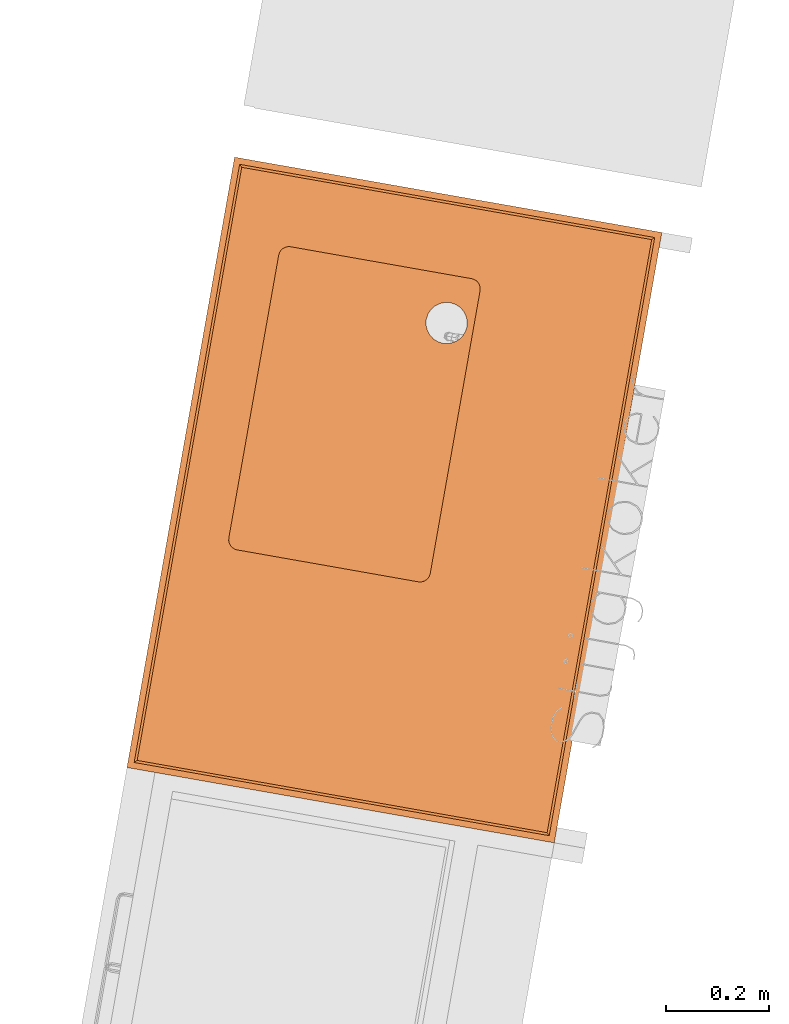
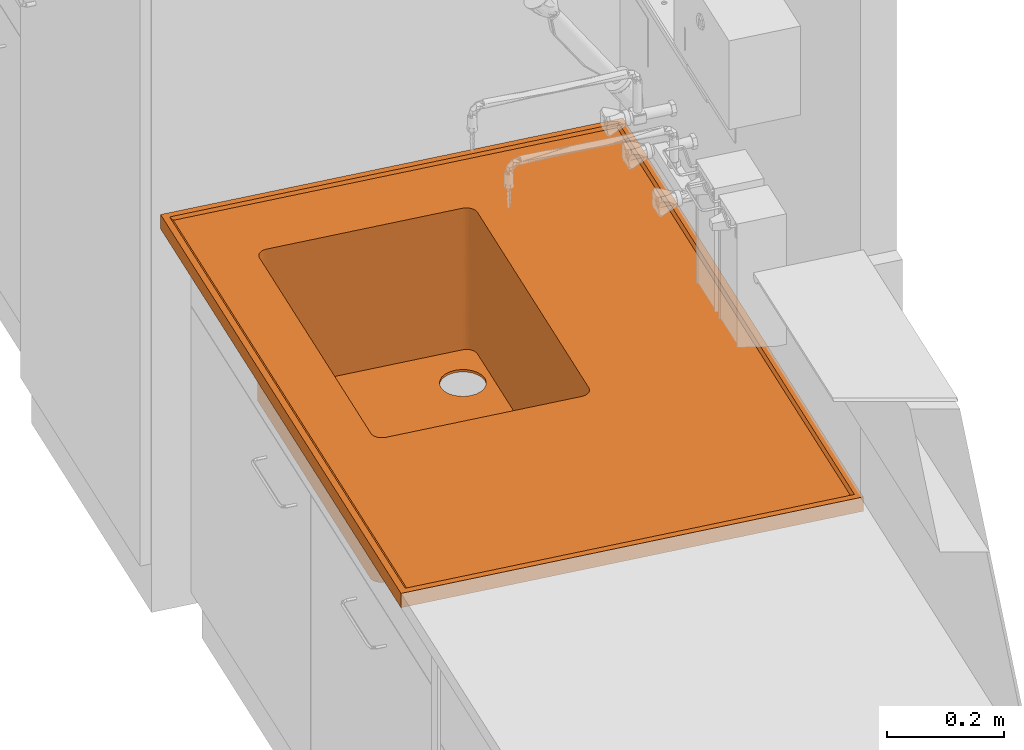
# One storey, part 32 of 43: 1 proxy.
"""IFC2X3 building model written with IfcOpenShell, lengths in metres."""

from ifc_helpers import new_model, entity, si_unit, converted_unit, derived_unit, direction, frame, origin, place, context, subcontext, project, spatial, faceted_brep, source, transform, mapped, material, type_object, type_shapes, element, save


model = new_model("IFC2X3")

# Units and contexts
model_context = context("Model", 3, precision=1e-05, world=origin(), true_north=direction((6.12303176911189e-17, 1.0)))
body_context = subcontext(model_context, "Body", "Model", "MODEL_VIEW")
ifc_project = project(units=[si_unit("LENGTHUNIT", "METRE"), si_unit("AREAUNIT", "SQUARE_METRE"), si_unit("VOLUMEUNIT", "CUBIC_METRE"), converted_unit("PLANEANGLEUNIT", "DEGREE", entity("IfcRatioMeasure", 0.0174532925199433), si_unit("PLANEANGLEUNIT", "RADIAN"), dimensions=[0, 0, 0, 0, 0, 0, 0]), si_unit("MASSUNIT", "GRAM", prefix="KILO"), derived_unit("MASSDENSITYUNIT", [(si_unit("MASSUNIT", "GRAM", prefix="KILO"), 1), (si_unit("LENGTHUNIT", "METRE"), -3)]), derived_unit("MOMENTOFINERTIAUNIT", [(si_unit("LENGTHUNIT", "METRE"), 4)]), si_unit("TIMEUNIT", "SECOND"), si_unit("FREQUENCYUNIT", "HERTZ"), si_unit("THERMODYNAMICTEMPERATUREUNIT", "DEGREE_CELSIUS"), derived_unit("THERMALTRANSMITTANCEUNIT", [(si_unit("MASSUNIT", "GRAM", prefix="KILO"), 1), (si_unit("THERMODYNAMICTEMPERATUREUNIT", "KELVIN"), -1), (si_unit("TIMEUNIT", "SECOND"), -3)]), derived_unit("VOLUMETRICFLOWRATEUNIT", [(si_unit("LENGTHUNIT", "METRE"), 3), (si_unit("TIMEUNIT", "SECOND"), -1)]), si_unit("ELECTRICCURRENTUNIT", "AMPERE"), si_unit("ELECTRICVOLTAGEUNIT", "VOLT"), si_unit("POWERUNIT", "WATT"), si_unit("FORCEUNIT", "NEWTON", prefix="KILO"), si_unit("ILLUMINANCEUNIT", "LUX"), si_unit("LUMINOUSFLUXUNIT", "LUMEN"), si_unit("LUMINOUSINTENSITYUNIT", "CANDELA"), derived_unit("USERDEFINED", [(si_unit("MASSUNIT", "GRAM", prefix="KILO"), -1), (si_unit("LENGTHUNIT", "METRE"), -2), (si_unit("TIMEUNIT", "SECOND"), 3), (si_unit("LUMINOUSFLUXUNIT", "LUMEN"), 1)]), derived_unit("LINEARVELOCITYUNIT", [(si_unit("LENGTHUNIT", "METRE"), 1), (si_unit("TIMEUNIT", "SECOND"), -1)]), si_unit("PRESSUREUNIT", "PASCAL"), derived_unit("USERDEFINED", [(si_unit("LENGTHUNIT", "METRE"), -2), (si_unit("MASSUNIT", "GRAM", prefix="KILO"), 1), (si_unit("TIMEUNIT", "SECOND"), -2)]), derived_unit("LINEARFORCEUNIT", [(si_unit("MASSUNIT", "GRAM", prefix="KILO"), 1), (si_unit("LENGTHUNIT", "METRE"), 1), (si_unit("TIMEUNIT", "SECOND"), -2), (si_unit("LENGTHUNIT", "METRE"), -1)]), derived_unit("PLANARFORCEUNIT", [(si_unit("MASSUNIT", "GRAM", prefix="KILO"), 1), (si_unit("LENGTHUNIT", "METRE"), 1), (si_unit("TIMEUNIT", "SECOND"), -2), (si_unit("LENGTHUNIT", "METRE"), -2)])], contexts=[model_context])

# Site, building, storey
site_placement = place(None, origin())
site = spatial("IfcSite", under=ifc_project, at=site_placement, Name="Default", CompositionType="ELEMENT")
building_placement = place(site_placement, origin())
building = spatial("IfcBuilding", under=site, at=building_placement, CompositionType="ELEMENT")
storey_placement = place(building_placement, frame((0.0, 0.0, 3.0)))
storey = spatial("IfcBuildingStorey", under=building, at=storey_placement, Name="01 OG", CompositionType="ELEMENT", Elevation=3.0)

# Proxy
ifc_material = material(Name="Steinzeug")
building_element_proxy_type = type_object("IfcBuildingElementProxyType", Name="dh_Tischplatte Steinzeug Becken:dh_Tischplatte Steinzeug Becken", PredefinedType="NOTDEFINED", material=ifc_material)
shared_shape = source(origin(), body_context, "Body", "Brep", [
    faceted_brep([(0.150681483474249, 0.500176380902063, 0.0), (0.155857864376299, 0.509142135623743, 0.0), (0.16000000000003, 0.512320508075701, 0.0), (0.152679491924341, 0.505000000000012, 0.0), (0.15000000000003, 0.495000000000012, 0.0), (0.16482361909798, 0.514318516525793, 0.0), (0.17000000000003, 0.515000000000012, 0.0), (0.206362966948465, 0.470352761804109, 0.0), (0.210358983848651, 0.480000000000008, 0.0), (0.216715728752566, 0.48828427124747, 0.0), (0.225000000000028, 0.494641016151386, 0.0), (0.234647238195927, 0.498637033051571, 0.0), (0.245000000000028, 0.500000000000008, 0.0), (0.255352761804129, 0.498637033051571, 0.0), (0.730000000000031, 0.515000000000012, 0.0), (0.265000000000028, 0.494641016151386, 0.0), (0.27328427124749, 0.48828427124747, 0.0), (0.279641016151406, 0.480000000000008, 0.0), (0.283637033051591, 0.470352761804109, 0.0), (0.285000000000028, 0.460000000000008, 0.0), (0.283637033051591, 0.449647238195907, 0.0), (0.279641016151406, 0.440000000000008, 0.0), (0.73000000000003, 0.115000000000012, 0.0), (0.75000000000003, 0.135000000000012, 0.0), (0.75000000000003, 0.495000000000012, 0.0), (0.735176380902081, 0.514318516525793, 0.0), (0.740000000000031, 0.512320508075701, 0.0), (0.749318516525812, 0.500176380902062, 0.0), (0.744142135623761, 0.509142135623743, 0.0), (0.747320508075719, 0.505000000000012, 0.0), (0.73517638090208, 0.115681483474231, 0.0), (0.74000000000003, 0.117679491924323, 0.0), (0.749318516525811, 0.129823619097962, 0.0), (0.744142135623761, 0.120857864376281, 0.0), (0.747320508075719, 0.125000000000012, 0.0), (0.27328427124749, 0.431715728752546, 0.0), (0.170000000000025, 0.115000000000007, 0.0), (0.265000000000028, 0.425358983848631, 0.0), (0.255352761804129, 0.421362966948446, 0.0), (0.150000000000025, 0.135000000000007, 0.0), (0.164823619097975, 0.115681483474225, 0.0), (0.160000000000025, 0.117679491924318, 0.0), (0.150681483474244, 0.129823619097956, 0.0), (0.155857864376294, 0.120857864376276, 0.0), (0.152679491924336, 0.125000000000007, 0.0), (0.210358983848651, 0.440000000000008, 0.0), (0.216715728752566, 0.431715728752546, 0.0), (0.225000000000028, 0.425358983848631, 0.0), (0.234647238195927, 0.421362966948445, 0.0), (0.245000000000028, 0.420000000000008, 0.0), (0.205000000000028, 0.460000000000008, 0.0), (0.206362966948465, 0.449647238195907, 0.0), (0.74532050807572, 0.503000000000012, 0.3), (0.74732050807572, 0.505000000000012, 0.3), (0.742142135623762, 0.507142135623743, 0.3), (0.749318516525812, 0.500176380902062, 0.3), (0.747318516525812, 0.498176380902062, 0.3), (0.750000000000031, 0.495000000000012, 0.3), (0.748000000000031, 0.493000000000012, 0.3), (0.748000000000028, 0.137000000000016, 0.3), (0.750000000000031, 0.135000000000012, 0.3), (0.747318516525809, 0.131823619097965, 0.3), (0.749318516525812, 0.129823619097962, 0.3), (0.745320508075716, 0.127000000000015, 0.3), (0.74732050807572, 0.125000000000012, 0.3), (0.742142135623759, 0.122857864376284, 0.3), (0.744142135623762, 0.120857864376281, 0.3), (0.740000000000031, 0.117679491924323, 0.3), (0.738000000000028, 0.119679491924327, 0.3), (0.735176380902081, 0.115681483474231, 0.3), (0.733176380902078, 0.117681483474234, 0.3), (0.730000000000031, 0.115000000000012, 0.3), (0.728000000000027, 0.117000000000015, 0.3), (0.172000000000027, 0.117000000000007, 0.300000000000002), (0.170000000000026, 0.115000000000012, 0.300000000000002), (0.166823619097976, 0.117681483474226, 0.300000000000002), (0.164823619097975, 0.115681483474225, 0.300000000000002), (0.162000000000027, 0.119679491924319, 0.300000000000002), (0.160000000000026, 0.117679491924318, 0.300000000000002), (0.157857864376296, 0.122857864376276, 0.300000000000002), (0.155857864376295, 0.120857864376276, 0.300000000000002), (0.152679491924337, 0.125000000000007, 0.300000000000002), (0.154679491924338, 0.127000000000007, 0.300000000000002), (0.150681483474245, 0.129823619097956, 0.300000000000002), (0.152681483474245, 0.131823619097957, 0.300000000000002), (0.150000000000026, 0.135000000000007, 0.300000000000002), (0.152000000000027, 0.137000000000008, 0.300000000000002), (0.150000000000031, 0.495000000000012, 0.300000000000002), (0.152000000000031, 0.493000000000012, 0.300000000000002), (0.15268148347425, 0.498176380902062, 0.300000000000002), (0.15068148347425, 0.500176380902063, 0.300000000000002), (0.154679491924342, 0.503000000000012, 0.300000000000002), (0.152679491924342, 0.505000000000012, 0.300000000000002), (0.1578578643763, 0.507142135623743, 0.300000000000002), (0.1558578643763, 0.509142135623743, 0.300000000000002), (0.160000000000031, 0.512320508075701, 0.300000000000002), (0.162000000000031, 0.510320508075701, 0.300000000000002), (0.164823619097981, 0.514318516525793, 0.300000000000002), (0.166823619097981, 0.512318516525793, 0.300000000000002), (0.170000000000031, 0.515000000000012, 0.300000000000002), (0.172000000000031, 0.513000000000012, 0.300000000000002), (0.730000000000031, 0.515000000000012, 0.3), (0.728000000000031, 0.513000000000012, 0.3), (0.733176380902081, 0.512318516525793, 0.3), (0.735176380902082, 0.514318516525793, 0.3), (0.738000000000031, 0.510320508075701, 0.3), (0.740000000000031, 0.512320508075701, 0.3), (0.744142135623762, 0.509142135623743, 0.3), (0.730000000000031, 0.515000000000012, 0.15000042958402), (0.170000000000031, 0.515000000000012, 0.150000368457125), (0.150000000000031, 0.495000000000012, 0.150000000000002), (0.150000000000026, 0.135000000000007, 0.150000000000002), (0.170000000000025, 0.115000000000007, 0.150000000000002), (0.73000000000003, 0.115000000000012, 0.15), (0.75000000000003, 0.135000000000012, 0.15), (0.750000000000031, 0.495000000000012, 0.15), (0.16200000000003, 0.510320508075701, 0.00500000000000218), (0.157857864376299, 0.507142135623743, 0.00500000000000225), (0.152681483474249, 0.498176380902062, 0.00500000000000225), (0.15200000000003, 0.493000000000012, 0.00500000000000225), (0.16682361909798, 0.512318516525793, 0.00500000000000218), (0.154679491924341, 0.503000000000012, 0.00500000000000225), (0.17200000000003, 0.513000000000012, 0.00500000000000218), (0.206362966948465, 0.470352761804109, 0.00500000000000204), (0.205000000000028, 0.460000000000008, 0.00500000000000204), (0.206362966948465, 0.449647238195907, 0.00500000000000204), (0.210358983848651, 0.440000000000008, 0.00500000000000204), (0.152000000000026, 0.137000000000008, 0.00500000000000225), (0.216715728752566, 0.431715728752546, 0.00500000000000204), (0.225000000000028, 0.425358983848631, 0.00500000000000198), (0.234647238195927, 0.421362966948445, 0.00500000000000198), (0.245000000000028, 0.420000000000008, 0.00500000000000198), (0.255352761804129, 0.421362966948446, 0.00500000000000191), (0.172000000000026, 0.117000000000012, 0.00500000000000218), (0.166823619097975, 0.117681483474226, 0.00500000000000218), (0.162000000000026, 0.119679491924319, 0.00500000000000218), (0.152681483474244, 0.131823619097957, 0.00500000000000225), (0.157857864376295, 0.122857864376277, 0.00500000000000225), (0.154679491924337, 0.127000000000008, 0.00500000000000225), (0.265000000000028, 0.425358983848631, 0.00500000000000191), (0.27328427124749, 0.431715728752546, 0.00500000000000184), (0.728000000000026, 0.117000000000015, 0.00500000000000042), (0.279641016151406, 0.440000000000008, 0.00500000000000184), (0.72800000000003, 0.513000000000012, 0.00500000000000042), (0.74800000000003, 0.137000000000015, 0.00500000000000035), (0.733176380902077, 0.117681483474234, 0.00500000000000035), (0.738000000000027, 0.119679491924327, 0.00500000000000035), (0.747318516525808, 0.131823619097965, 0.00500000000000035), (0.742142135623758, 0.122857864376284, 0.00500000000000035), (0.745320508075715, 0.127000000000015, 0.00500000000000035), (0.74800000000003, 0.493000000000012, 0.00500000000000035), (0.733176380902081, 0.512318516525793, 0.00500000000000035), (0.73800000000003, 0.510320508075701, 0.00500000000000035), (0.747318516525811, 0.498176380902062, 0.00500000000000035), (0.742142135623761, 0.507142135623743, 0.00500000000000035), (0.745320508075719, 0.503000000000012, 0.00500000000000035), (0.255352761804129, 0.498637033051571, 0.00500000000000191), (0.265000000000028, 0.494641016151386, 0.00500000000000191), (0.27328427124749, 0.48828427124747, 0.00500000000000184), (0.279641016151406, 0.480000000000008, 0.00500000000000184), (0.283637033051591, 0.470352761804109, 0.00500000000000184), (0.285000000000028, 0.460000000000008, 0.00500000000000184), (0.283637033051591, 0.449647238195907, 0.00500000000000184), (0.210358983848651, 0.480000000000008, 0.00500000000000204), (0.216715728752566, 0.48828427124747, 0.00500000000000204), (0.225000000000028, 0.494641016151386, 0.00500000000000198), (0.234647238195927, 0.498637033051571, 0.00500000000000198), (0.245000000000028, 0.500000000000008, 0.00500000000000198), (0.172000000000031, 0.513000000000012, 0.152499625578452), (0.728000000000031, 0.513000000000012, 0.1525), (0.152000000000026, 0.137000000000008, 0.152500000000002), (0.152000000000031, 0.493000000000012, 0.152500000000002), (0.728000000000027, 0.117000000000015, 0.1525), (0.172000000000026, 0.117000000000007, 0.152500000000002), (0.748000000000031, 0.493000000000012, 0.1525), (0.748000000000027, 0.137000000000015, 0.1525), (0.164346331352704, 0.511477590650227, 0.152499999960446), (0.153522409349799, 0.500653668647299, 0.152499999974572), (0.152384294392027, 0.496901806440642, 0.187662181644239), (0.168098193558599, 0.512615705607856, 0.117337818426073), (0.159824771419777, 0.508867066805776, 0.136631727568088), (0.156132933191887, 0.505175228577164, 0.168368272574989), (0.153522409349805, 0.129346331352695, 0.152499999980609), (0.164346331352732, 0.118522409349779, 0.152499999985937), (0.168098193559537, 0.117384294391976, 0.187662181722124), (0.15238429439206, 0.133098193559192, 0.117337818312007), (0.156132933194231, 0.124824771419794, 0.136631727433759), (0.15982477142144, 0.121132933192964, 0.168368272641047), (0.735653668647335, 0.118522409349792, 0.152499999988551), (0.746477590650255, 0.129346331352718, 0.1524999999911), (0.747615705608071, 0.133098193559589, 0.187662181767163), (0.731901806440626, 0.117384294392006, 0.117337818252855), (0.740175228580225, 0.121132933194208, 0.136631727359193), (0.7438670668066, 0.124824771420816, 0.168368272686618), (0.746477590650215, 0.500653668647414, 0.152499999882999), (0.735653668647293, 0.511477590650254, 0.152499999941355), (0.731901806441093, 0.512615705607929, 0.187662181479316), (0.747615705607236, 0.496901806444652, 0.117337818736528), (0.743867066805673, 0.505175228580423, 0.136631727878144), (0.740175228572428, 0.508867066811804, 0.168368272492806), (0.162346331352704, 0.513477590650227, 0.149999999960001), (0.150384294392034, 0.498901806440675, 0.187055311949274), (0.151522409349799, 0.502653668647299, 0.14999999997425), (0.166098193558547, 0.514615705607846, 0.112944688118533), (0.157824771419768, 0.510867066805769, 0.13191703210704), (0.154132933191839, 0.507175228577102, 0.16808296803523), (0.151522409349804, 0.127346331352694, 0.149999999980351), (0.166098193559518, 0.115384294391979, 0.187055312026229), (0.162346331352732, 0.116522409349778, 0.149999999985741), (0.150384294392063, 0.131098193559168, 0.112944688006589), (0.154132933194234, 0.122824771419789, 0.13191703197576), (0.157824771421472, 0.119132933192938, 0.16808296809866), (0.737653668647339, 0.116522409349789, 0.149999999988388), (0.749615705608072, 0.131098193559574, 0.187055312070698), (0.748477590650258, 0.127346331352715, 0.14999999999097), (0.733901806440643, 0.115384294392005, 0.112944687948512), (0.742175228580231, 0.119132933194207, 0.131917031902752), (0.745867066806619, 0.122824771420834, 0.168082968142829), (0.748477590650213, 0.502653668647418, 0.149999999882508), (0.733901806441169, 0.514615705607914, 0.187055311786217), (0.737653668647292, 0.513477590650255, 0.149999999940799), (0.749615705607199, 0.498901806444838, 0.112944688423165), (0.745867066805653, 0.507175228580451, 0.131917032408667), (0.742175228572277, 0.51086706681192, 0.168082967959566)], [[[0, 1, 2]], [[0, 3, 1]], [[0, 2, 4]], [[4, 2, 5]], [[5, 6, 4]], [[6, 7, 4]], [[8, 7, 6]], [[8, 6, 9]], [[10, 9, 6]], [[6, 11, 10]], [[6, 12, 11]], [[12, 6, 13]], [[13, 6, 14]], [[15, 13, 14]], [[16, 15, 14]], [[16, 14, 17]], [[18, 17, 14]], [[19, 18, 14]], [[19, 14, 20]], [[20, 14, 21]], [[22, 21, 14]], [[23, 22, 14]], [[23, 14, 24]], [[24, 14, 25]], [[24, 25, 26]], [[24, 26, 27]], [[27, 26, 28]], [[28, 29, 27]], [[22, 23, 30]], [[31, 30, 23]], [[32, 31, 23]], [[33, 31, 32]], [[33, 32, 34]], [[35, 21, 22]], [[22, 36, 35]], [[35, 36, 37]], [[37, 36, 38]], [[39, 38, 36]], [[39, 36, 40]], [[41, 39, 40]], [[41, 42, 39]], [[42, 41, 43]], [[42, 43, 44]], [[39, 4, 45]], [[46, 39, 45]], [[39, 46, 47]], [[47, 48, 39]], [[49, 39, 48]], [[38, 39, 49]], [[4, 7, 50]], [[4, 50, 51]], [[4, 51, 45]], [[52, 53, 54]], [[53, 52, 55]], [[55, 52, 56]], [[57, 55, 56]], [[56, 58, 57]], [[57, 58, 59]], [[59, 60, 57]], [[60, 59, 61]], [[60, 61, 62]], [[62, 61, 63]], [[64, 62, 63]], [[65, 64, 63]], [[64, 65, 66]], [[65, 67, 66]], [[65, 68, 67]], [[67, 68, 69]], [[68, 70, 69]], [[71, 69, 70]], [[72, 71, 70]], [[71, 72, 73]], [[73, 74, 71]], [[73, 75, 74]], [[74, 75, 76]], [[75, 77, 76]], [[77, 78, 76]], [[77, 79, 78]], [[79, 80, 78]], [[79, 81, 80]], [[81, 79, 82]], [[83, 81, 82]], [[82, 84, 83]], [[84, 85, 83]], [[84, 86, 85]], [[85, 86, 87]], [[88, 87, 86]], [[88, 89, 87]], [[90, 87, 89]], [[89, 91, 90]], [[91, 92, 90]], [[92, 91, 93]], [[92, 93, 94]], [[93, 95, 94]], [[95, 93, 96]], [[97, 95, 96]], [[98, 97, 96]], [[98, 99, 97]], [[98, 100, 99]], [[99, 100, 101]], [[102, 101, 100]], [[103, 101, 102]], [[103, 104, 101]], [[104, 103, 105]], [[54, 106, 105]], [[105, 106, 104]], [[54, 53, 107]], [[106, 54, 107]], [[99, 101, 108, 14, 6, 109]], [[87, 110, 4, 39, 111, 85]], [[74, 112, 36, 22, 113, 71]], [[60, 114, 23, 24, 115, 57]], [[116, 117, 118]], [[119, 116, 118]], [[120, 116, 119]], [[117, 121, 118]], [[119, 122, 120]], [[119, 123, 122]], [[124, 123, 119]], [[125, 124, 119]], [[126, 125, 119]], [[126, 119, 127]], [[126, 127, 128]], [[129, 128, 127]], [[127, 130, 129]], [[130, 127, 131]], [[131, 127, 132]], [[133, 132, 127]], [[134, 133, 127]], [[134, 127, 135]], [[127, 136, 135]], [[137, 135, 136]], [[138, 137, 136]], [[132, 133, 139]], [[139, 133, 140]], [[140, 133, 141]], [[141, 142, 140]], [[143, 142, 141]], [[143, 141, 144]], [[145, 144, 141]], [[144, 145, 146]], [[144, 146, 147]], [[147, 146, 148]], [[149, 147, 148]], [[150, 143, 144]], [[151, 143, 150]], [[152, 151, 150]], [[153, 152, 150]], [[154, 152, 153]], [[153, 155, 154]], [[143, 122, 156]], [[143, 156, 157]], [[143, 157, 158]], [[159, 143, 158]], [[143, 159, 160]], [[143, 160, 161]], [[162, 143, 161]], [[142, 143, 162]], [[122, 123, 163]], [[164, 122, 163]], [[122, 164, 165]], [[165, 166, 122]], [[166, 167, 122]], [[156, 122, 167]], [[100, 168, 122, 143, 169, 102]], [[86, 170, 127, 119, 171, 88]], [[72, 172, 141, 133, 173, 73]], [[58, 174, 150, 144, 175, 59]], [[19, 161, 160, 18]], [[18, 160, 159, 17]], [[15, 16, 158, 157]], [[158, 16, 17, 159]], [[13, 15, 157, 156]], [[13, 156, 167, 12]], [[12, 167, 166, 11]], [[11, 166, 165, 10]], [[8, 9, 164, 163]], [[164, 9, 10, 165]], [[7, 8, 163, 123]], [[7, 123, 124, 50]], [[50, 124, 125, 51]], [[51, 125, 126, 45]], [[47, 46, 128, 129]], [[128, 46, 45, 126]], [[48, 47, 129, 130]], [[48, 130, 131, 49]], [[49, 131, 132, 38]], [[38, 132, 139, 37]], [[21, 35, 140, 142]], [[140, 35, 37, 139]], [[20, 21, 142, 162]], [[20, 162, 161, 19]], [[116, 120, 176]], [[177, 178, 118]], [[168, 179, 122]], [[116, 176, 180]], [[180, 117, 116]], [[176, 120, 179]], [[89, 88, 178]], [[100, 98, 168]], [[176, 98, 96]], [[122, 179, 120]], [[180, 176, 96]], [[171, 178, 88]], [[118, 121, 177]], [[117, 180, 181]], [[181, 180, 93]], [[171, 119, 118]], [[181, 121, 117]], [[91, 177, 181]], [[98, 179, 168]], [[91, 89, 177]], [[89, 178, 177]], [[93, 180, 96]], [[118, 178, 171]], [[181, 177, 121]], [[176, 179, 98]], [[93, 91, 181]], [[138, 136, 182]], [[183, 184, 134]], [[170, 185, 127]], [[138, 182, 186]], [[186, 137, 138]], [[182, 136, 185]], [[75, 73, 184]], [[86, 84, 170]], [[182, 84, 82]], [[127, 185, 136]], [[186, 182, 82]], [[173, 184, 73]], [[134, 135, 183]], [[137, 186, 187]], [[187, 186, 79]], [[173, 133, 134]], [[187, 135, 137]], [[77, 183, 187]], [[84, 185, 170]], [[77, 75, 183]], [[75, 184, 183]], [[79, 186, 82]], [[134, 184, 173]], [[187, 183, 135]], [[182, 185, 84]], [[79, 77, 187]], [[146, 145, 188]], [[189, 190, 147]], [[172, 191, 141]], [[146, 188, 192]], [[192, 148, 146]], [[188, 145, 191]], [[61, 59, 190]], [[72, 70, 172]], [[188, 70, 68]], [[141, 191, 145]], [[192, 188, 68]], [[175, 190, 59]], [[147, 149, 189]], [[148, 192, 193]], [[193, 192, 65]], [[175, 144, 147]], [[193, 149, 148]], [[63, 189, 193]], [[70, 191, 172]], [[63, 61, 189]], [[61, 190, 189]], [[65, 192, 68]], [[147, 190, 175]], [[193, 189, 149]], [[188, 191, 70]], [[65, 63, 193]], [[155, 153, 194]], [[195, 196, 151]], [[174, 197, 150]], [[155, 194, 198]], [[198, 154, 155]], [[194, 153, 197]], [[103, 102, 196]], [[58, 56, 174]], [[194, 56, 52]], [[150, 197, 153]], [[198, 194, 52]], [[169, 196, 102]], [[151, 152, 195]], [[154, 198, 199]], [[199, 198, 54]], [[169, 143, 151]], [[199, 152, 154]], [[105, 195, 199]], [[56, 197, 174]], [[105, 103, 195]], [[103, 196, 195]], [[54, 198, 52]], [[151, 196, 169]], [[199, 195, 152]], [[194, 197, 56]], [[54, 105, 199]], [[200, 5, 2]], [[0, 201, 202]], [[6, 203, 109]], [[204, 200, 2]], [[2, 1, 204]], [[203, 5, 200]], [[201, 87, 90]], [[109, 97, 99]], [[95, 97, 200]], [[5, 203, 6]], [[95, 200, 204]], [[87, 201, 110]], [[202, 3, 0]], [[205, 204, 1]], [[94, 204, 205]], [[0, 4, 110]], [[1, 3, 205]], [[205, 202, 92]], [[109, 203, 97]], [[202, 90, 92]], [[202, 201, 90]], [[95, 204, 94]], [[110, 201, 0]], [[3, 202, 205]], [[97, 203, 200]], [[205, 92, 94]], [[206, 42, 44]], [[40, 207, 208]], [[39, 209, 111]], [[210, 206, 44]], [[44, 43, 210]], [[209, 42, 206]], [[207, 74, 76]], [[111, 83, 85]], [[81, 83, 206]], [[42, 209, 39]], [[81, 206, 210]], [[74, 207, 112]], [[208, 41, 40]], [[211, 210, 43]], [[80, 210, 211]], [[40, 36, 112]], [[43, 41, 211]], [[211, 208, 78]], [[111, 209, 83]], [[208, 76, 78]], [[208, 207, 76]], [[81, 210, 80]], [[112, 207, 40]], [[41, 208, 211]], [[83, 209, 206]], [[211, 78, 80]], [[212, 30, 31]], [[32, 213, 214]], [[22, 215, 113]], [[216, 212, 31]], [[31, 33, 216]], [[215, 30, 212]], [[213, 60, 62]], [[113, 69, 71]], [[67, 69, 212]], [[30, 215, 22]], [[67, 212, 216]], [[60, 213, 114]], [[214, 34, 32]], [[217, 216, 33]], [[66, 216, 217]], [[32, 23, 114]], [[33, 34, 217]], [[217, 214, 64]], [[113, 215, 69]], [[214, 62, 64]], [[214, 213, 62]], [[67, 216, 66]], [[114, 213, 32]], [[34, 214, 217]], [[69, 215, 212]], [[217, 64, 66]], [[218, 27, 29]], [[25, 219, 220]], [[24, 221, 115]], [[222, 218, 29]], [[29, 28, 222]], [[221, 27, 218]], [[219, 101, 104]], [[115, 55, 57]], [[53, 55, 218]], [[27, 221, 24]], [[53, 218, 222]], [[101, 219, 108]], [[220, 26, 25]], [[223, 222, 28]], [[107, 222, 223]], [[25, 14, 108]], [[28, 26, 223]], [[223, 220, 106]], [[115, 221, 55]], [[220, 104, 106]], [[220, 219, 104]], [[53, 222, 107]], [[108, 219, 25]], [[26, 220, 223]], [[55, 221, 218]], [[223, 106, 107]]]),
    faceted_brep([(1.18300000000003, 0.823000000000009, 0.299999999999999), (0.74532050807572, 0.503000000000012, 0.3), (0.747318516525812, 0.498176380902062, 0.3), (0.742142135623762, 0.507142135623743, 0.300000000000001), (0.748000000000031, 0.493000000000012, 0.3), (1.18300000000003, 0.017000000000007, 0.299999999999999), (0.738000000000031, 0.510320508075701, 0.300000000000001), (0.733176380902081, 0.512318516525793, 0.300000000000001), (0.728000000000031, 0.513000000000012, 0.300000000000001), (0.017000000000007, 0.823000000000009, 0.300000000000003), (0.172000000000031, 0.513000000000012, 0.300000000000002), (0.166823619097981, 0.512318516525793, 0.300000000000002), (0.162000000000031, 0.510320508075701, 0.300000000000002), (0.1578578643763, 0.507142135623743, 0.300000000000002), (0.154679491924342, 0.503000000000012, 0.300000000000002), (0.15268148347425, 0.498176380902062, 0.300000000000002), (0.152000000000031, 0.493000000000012, 0.300000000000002), (0.0170000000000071, 0.017000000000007, 0.300000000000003), (0.728000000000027, 0.117000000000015, 0.300000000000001), (0.152000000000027, 0.137000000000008, 0.300000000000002), (0.152681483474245, 0.131823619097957, 0.300000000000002), (0.154679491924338, 0.127000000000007, 0.300000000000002), (0.157857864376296, 0.122857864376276, 0.300000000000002), (0.162000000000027, 0.119679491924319, 0.300000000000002), (0.166823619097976, 0.117681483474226, 0.300000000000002), (0.172000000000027, 0.117000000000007, 0.300000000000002), (0.733176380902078, 0.117681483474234, 0.300000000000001), (0.748000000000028, 0.137000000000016, 0.3), (0.747318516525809, 0.131823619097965, 0.3), (0.745320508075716, 0.127000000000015, 0.3), (0.742142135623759, 0.122857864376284, 0.300000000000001), (0.738000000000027, 0.119679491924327, 0.300000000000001), (0.0, 0.840000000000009, 0.275000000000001), (0.154679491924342, 0.503000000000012, 0.275000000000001), (0.15268148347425, 0.498176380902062, 0.275000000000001), (0.1578578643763, 0.507142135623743, 0.275000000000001), (0.152000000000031, 0.493000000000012, 0.275000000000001), (0.0, 0.0, 0.275000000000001), (0.162000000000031, 0.510320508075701, 0.275000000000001), (0.166823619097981, 0.512318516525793, 0.275000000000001), (0.172000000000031, 0.513000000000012, 0.275000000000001), (0.728000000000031, 0.513000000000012, 0.274999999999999), (1.20000000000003, 0.840000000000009, 0.274999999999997), (0.733176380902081, 0.512318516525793, 0.274999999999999), (0.738000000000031, 0.510320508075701, 0.274999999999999), (0.742142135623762, 0.507142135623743, 0.274999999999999), (0.74532050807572, 0.503000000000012, 0.274999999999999), (0.747318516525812, 0.498176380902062, 0.274999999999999), (0.748000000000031, 0.493000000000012, 0.274999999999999), (1.20000000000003, 0.0, 0.274999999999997), (0.748000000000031, 0.137000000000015, 0.274999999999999), (0.747318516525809, 0.131823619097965, 0.274999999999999), (0.745320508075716, 0.127000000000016, 0.274999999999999), (0.742142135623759, 0.122857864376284, 0.274999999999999), (0.738000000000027, 0.119679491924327, 0.274999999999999), (0.733176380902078, 0.117681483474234, 0.274999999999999), (0.728000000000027, 0.117000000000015, 0.274999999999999), (0.152000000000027, 0.137000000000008, 0.275000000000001), (0.152681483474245, 0.131823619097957, 0.275000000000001), (0.154679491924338, 0.127000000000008, 0.275000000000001), (0.157857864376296, 0.122857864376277, 0.275000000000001), (0.162000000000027, 0.119679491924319, 0.275000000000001), (0.166823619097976, 0.117681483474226, 0.275000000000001), (0.172000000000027, 0.117000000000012, 0.275000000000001), (0.0, 0.840000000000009, 0.305000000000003), (1.20000000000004, 0.840000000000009, 0.304999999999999), (0.0, 0.0, 0.305000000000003), (1.20000000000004, 0.0, 0.304999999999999), (0.0120000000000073, 0.828000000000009, 0.305000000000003), (1.18800000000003, 0.828000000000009, 0.304999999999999), (1.18800000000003, 0.012000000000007, 0.304999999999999), (0.0120000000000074, 0.0120000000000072, 0.305000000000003)], [[[0, 1, 2]], [[1, 0, 3]], [[2, 4, 0]], [[0, 4, 5]], [[6, 3, 0]], [[7, 6, 0]], [[8, 7, 0]], [[0, 9, 8]], [[10, 8, 9]], [[11, 10, 9]], [[11, 9, 12]], [[13, 12, 9]], [[9, 14, 13]], [[14, 9, 15]], [[16, 15, 9]], [[9, 17, 16]], [[5, 18, 17]], [[19, 16, 17]], [[20, 19, 17]], [[17, 21, 20]], [[21, 17, 22]], [[23, 22, 17]], [[23, 17, 24]], [[25, 24, 17]], [[25, 17, 18]], [[26, 18, 5]], [[27, 5, 4]], [[27, 28, 5]], [[29, 5, 28]], [[5, 29, 30]], [[30, 31, 5]], [[31, 26, 5]], [[32, 33, 34]], [[33, 32, 35]], [[34, 36, 32]], [[32, 36, 37]], [[38, 35, 32]], [[39, 38, 32]], [[40, 39, 32]], [[32, 41, 40]], [[41, 32, 42]], [[43, 41, 42]], [[43, 42, 44]], [[45, 44, 42]], [[42, 46, 45]], [[46, 42, 47]], [[48, 47, 42]], [[42, 49, 48]], [[50, 48, 49]], [[51, 50, 49]], [[49, 52, 51]], [[52, 49, 53]], [[54, 53, 49]], [[54, 49, 55]], [[56, 55, 49]], [[56, 49, 37]], [[57, 37, 36]], [[57, 58, 37]], [[59, 37, 58]], [[37, 59, 60]], [[60, 61, 37]], [[61, 62, 37]], [[62, 63, 37]], [[37, 63, 56]], [[64, 65, 42, 32]], [[66, 64, 32, 37]], [[67, 66, 37, 49]], [[65, 67, 49, 42]], [[68, 9, 0, 69]], [[69, 0, 5, 70]], [[70, 5, 17, 71]], [[71, 17, 9, 68]], [[67, 70, 71]], [[70, 67, 69]], [[71, 66, 67]], [[65, 69, 67]], [[69, 65, 68]], [[64, 68, 65]], [[68, 64, 66]], [[66, 71, 68]], [[41, 8, 10, 40]], [[36, 16, 19, 57]], [[63, 25, 18, 56]], [[50, 27, 4, 48]], [[39, 40, 10, 11]], [[38, 39, 11, 12]], [[38, 12, 13, 35]], [[33, 35, 13, 14]], [[34, 33, 14, 15]], [[15, 16, 36, 34]], [[58, 57, 19, 20]], [[59, 58, 20, 21]], [[59, 21, 22, 60]], [[62, 61, 23, 24]], [[63, 62, 24, 25]], [[22, 23, 61, 60]], [[55, 56, 18, 26]], [[54, 55, 26, 31]], [[54, 31, 30, 53]], [[51, 52, 29, 28]], [[50, 51, 28, 27]], [[30, 29, 52, 53]], [[47, 48, 4, 2]], [[46, 47, 2, 1]], [[46, 1, 3, 45]], [[44, 45, 3, 6]], [[43, 44, 6, 7]], [[7, 8, 41, 43]]]),
])
type_shapes(building_element_proxy_type, [shared_shape])
proxy_placement = place(storey_placement, frame((28.911750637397, 11.2980298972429, 0.594999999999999), z_axis=(0.0, 0.0, 1.0), x_axis=(-0.173648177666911, -0.984807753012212, 0.0)))
element("IfcBuildingElementProxy", 1, at=proxy_placement, inside=storey, type_object=building_element_proxy_type, material=ifc_material, Name="dh_Tischplatte Steinzeug Becken:dh_Tischplatte Steinzeug Becken", ObjectType="dh_Tischplatte Steinzeug Becken:dh_Tischplatte Steinzeug Becken", context=body_context, shape_type="MappedRepresentation", body=[
    mapped(shared_shape, transform((0.0, 0.0, 0.0), scale=1.0)),
])

save(model, "model.ifc")
